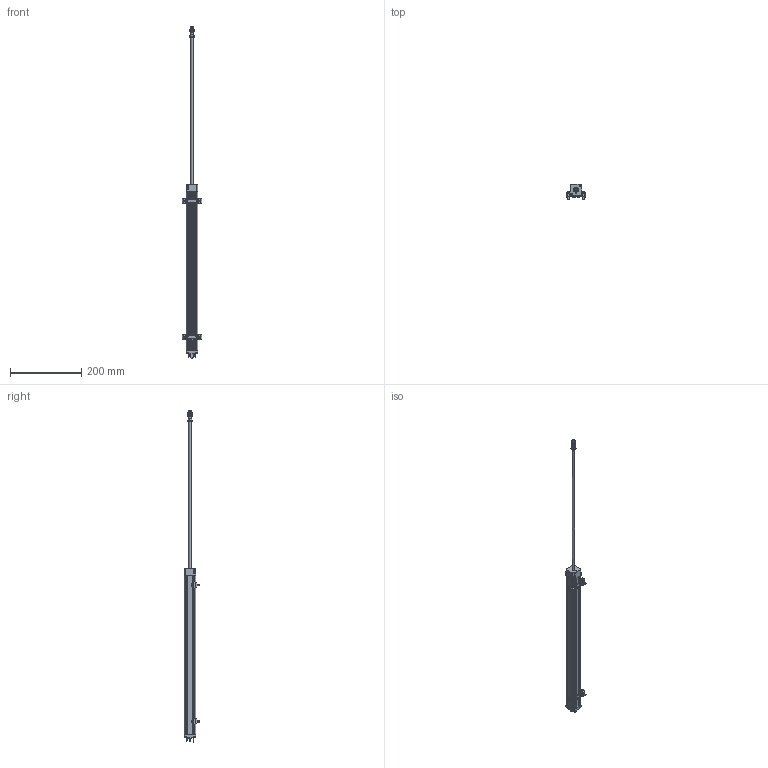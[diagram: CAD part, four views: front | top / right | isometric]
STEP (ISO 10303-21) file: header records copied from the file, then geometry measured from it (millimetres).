
FILE_DESCRIPTION (( 'STEP AP214' ), '1' );
FILE_NAME ('LWH_400.STEP', '2008-11-06T12:14:15', ( 'novotechnik' ), ( 'novotechnik' ), 'SwSTEP 2.0', 'SolidWorks 2008', '' );
FILE_SCHEMA (( 'AUTOMOTIVE_DESIGN' ));
Length unit declared in the file: millimetre
Products named in the file (4): LWH_400; LWH_400_-_Schubstange_Standard; LWH_400_-_Gehaeuse_Standard; LWH_-_Klammer_Standard
Assembly tree (4 placements, depth 2):
  LWH_400
    LWH_400_-_Gehaeuse_Standard
    LWH_-_Klammer_Standard  x2
    LWH_400_-_Schubstange_Standard
Bounding box: 56 x 43.08 x 934 mm (x, y, z)
Volume: 444049.8 mm3; surface area: 115645 mm2
Topology: 35 solids, 35 shells, 1066 faces, 2743 edges, 1770 vertices
Faces by surface type: plane 501, cylinder 392, cone 114, bspline 37, torus 22
Entity records: 39859 total; most frequent: CARTESIAN_POINT 7393, ORIENTED_EDGE 4638, DIRECTION 4515, EDGE_CURVE 2319, AXIS2_PLACEMENT_3D 1590, VERTEX_POINT 1500, LINE 1335, VECTOR 1335
